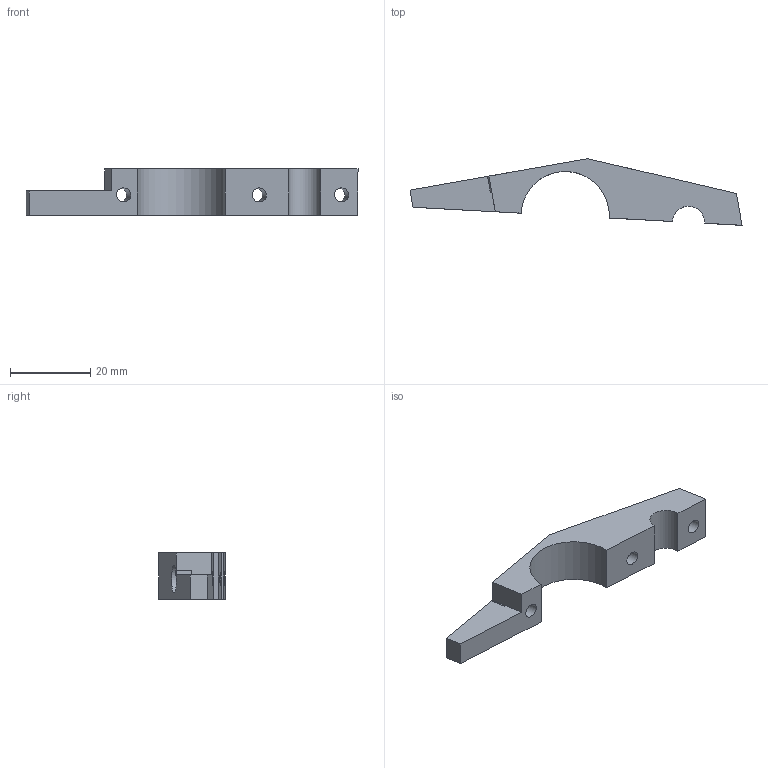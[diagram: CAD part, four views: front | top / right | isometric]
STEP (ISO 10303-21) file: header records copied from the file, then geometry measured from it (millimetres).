
FILE_DESCRIPTION(/* description */ (''),/* implementation_level */ '2;1');
FILE_NAME(/* name */ 'Z Front Left Bottom Clamp v1.step',/* time_stamp */ '2023-03-23T06:42:05-06:00',/* author */ (''),/* organization */ (''),/* preprocessor_version */ 'ST-DEVELOPER v19.2',/* originating_system */ 'Autodesk Translation Framework v11.17.0.187',/* authorisation */ '');
FILE_SCHEMA (('AUTOMOTIVE_DESIGN { 1 0 10303 214 3 1 1 }'));
Length unit declared in the file: millimetre
Products named in the file (2): Z Front Left Bottom Clamp; FL Bottom 2
Assembly tree (1 placements, depth 2):
  Z Front Left Bottom Clamp
    FL Bottom 2
Bounding box: 82.78 x 16.61 x 11.5 mm (x, y, z)
Volume: 5642.1 mm3; surface area: 3726 mm2
Topology: 1 solids, 1 shells, 27 faces, 66 edges, 44 vertices
Faces by surface type: plane 18, cylinder 9
Full cylindrical faces by diameter (mm): 3.5 x3, 7 x2
Entity records: 870 total; most frequent: DIRECTION 144, CARTESIAN_POINT 140, ORIENTED_EDGE 132, EDGE_CURVE 66, LINE 48, VECTOR 48, AXIS2_PLACEMENT_3D 48, VERTEX_POINT 44
